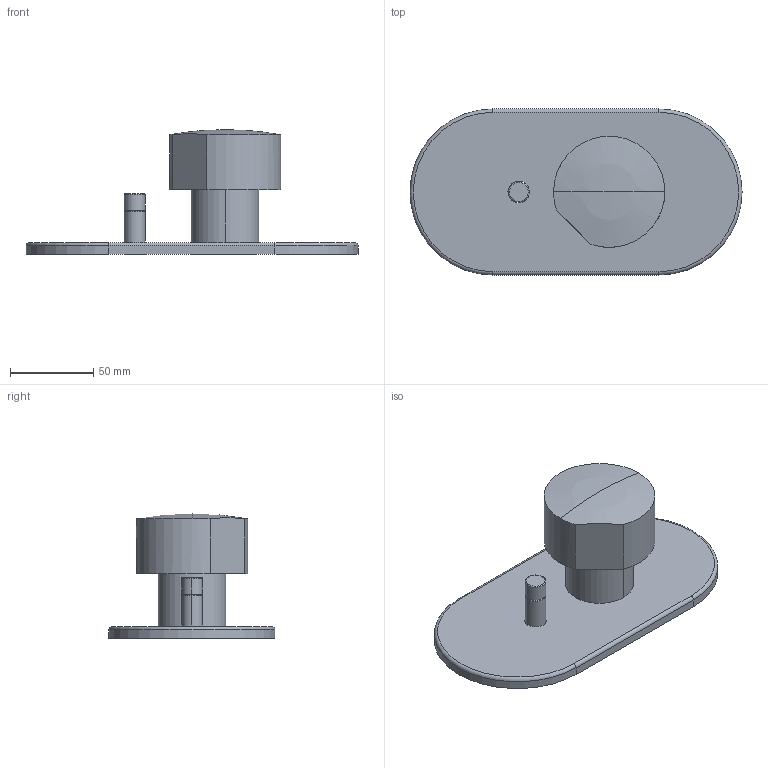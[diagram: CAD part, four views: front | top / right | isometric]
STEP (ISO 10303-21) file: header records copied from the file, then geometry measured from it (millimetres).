
FILE_DESCRIPTION((''),'2;1');
FILE_NAME('F3189X2_FILE_3D','2019-04-08T',('ivanv'),(''),'CREO PARAMETRIC BY PTC INC, 2016260','CREO PARAMETRIC BY PTC INC, 2016260','');
FILE_SCHEMA(('CONFIG_CONTROL_DESIGN'));
Length unit declared in the file: millimetre
Products named in the file (1): F3189X2_FILE_3D
Bounding box: 200 x 100 x 75 mm (x, y, z)
Volume: 62673.9 mm3; surface area: 77900.5 mm2
Topology: 5 solids, 5 shells, 125 faces, 272 edges, 169 vertices
Faces by surface type: cylinder 56, plane 33, torus 18, cone 16, sphere 2
Entity records: 3565 total; most frequent: DIRECTION 673, CARTESIAN_POINT 656, ORIENTED_EDGE 540, AXIS2_PLACEMENT_3D 288, EDGE_CURVE 270, VERTEX_POINT 169, CIRCLE 163, EDGE_LOOP 149
